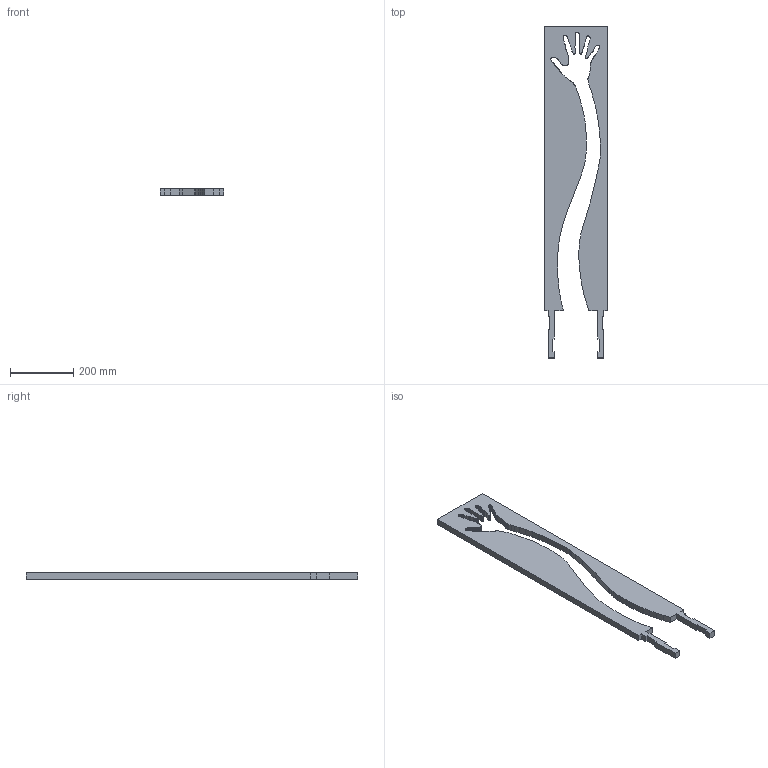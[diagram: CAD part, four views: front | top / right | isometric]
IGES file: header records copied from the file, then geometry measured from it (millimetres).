
Start section: SolidWorks IGES file using analytic representation for surfaces
Global section: file name: C:\SANTACOLE_PDM\I2\Productos de catálogo\outdoor\Mobiliario\Táctil\6_TECNICO COMERCIAL\3D WEB\IGES\Pilona Tactil.IGS; native system: SolidWorks 2013; preprocessor: SolidWorks 2013; author: jordi.munoz; date: 150605.145133; units: millimetre
Bounding box: 200 x 1050 x 20 mm (x, y, z)
Surface area: 367660.2 mm2 (no closed solid volume)
Topology: 0 solids, 0 shells, 1064 faces, 6372 edges, 6372 vertices
Faces by surface type: bspline 1064
